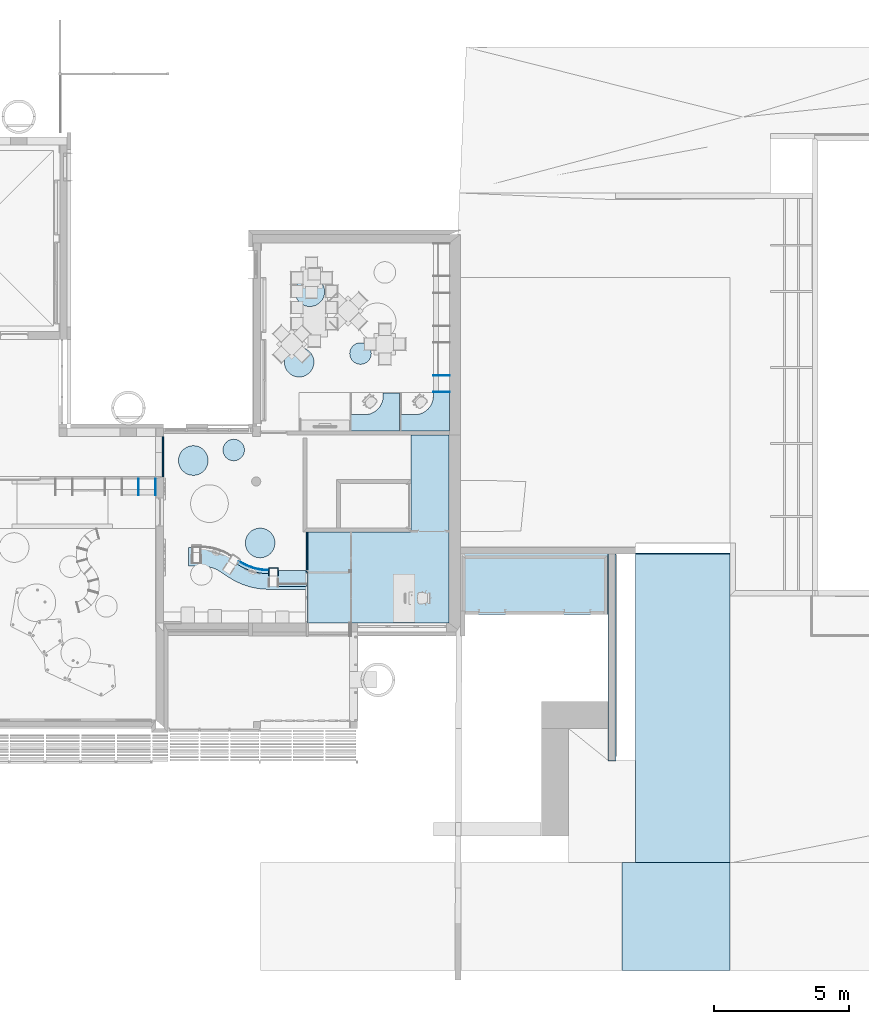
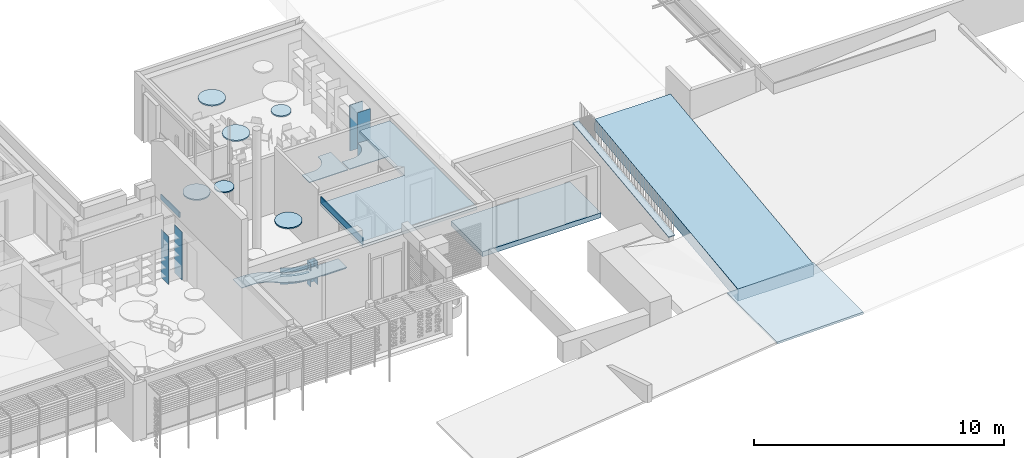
# One storey, part 13 of 64: 24 slabs, 4 openings.
"""IFC2X3 building model written with IfcOpenShell, lengths in metres."""

from ifc_helpers import new_model, entity, si_unit, converted_unit, derived_unit, direction, frame, frame_2d, origin, origin_2d_with_axis, place, context, subcontext, project, spatial, polyline, circle_curve, parameter, trimmed, segment, composite_curve, rectangle, circle, outline, extrude, material, layer, layer_set, layer_usage, type_object, element, save


model = new_model("IFC2X3")

# Units and contexts
model_context = context("Model", 3, precision=1e-05, world=origin(), true_north=direction((6.123031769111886e-17, 1.0)))
body_context = subcontext(model_context, "Body", "Model", "MODEL_VIEW")
ifc_project = project(units=[si_unit("LENGTHUNIT", "METRE"), si_unit("AREAUNIT", "SQUARE_METRE"), si_unit("VOLUMEUNIT", "CUBIC_METRE"), converted_unit("PLANEANGLEUNIT", "DEGREE", entity("IfcRatioMeasure", 0.017453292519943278), si_unit("PLANEANGLEUNIT", "RADIAN"), dimensions=[0, 0, 0, 0, 0, 0, 0]), si_unit("MASSUNIT", "GRAM", prefix="KILO"), derived_unit("MASSDENSITYUNIT", [(si_unit("MASSUNIT", "GRAM", prefix="KILO"), 1), (si_unit("LENGTHUNIT", "METRE"), -3)]), derived_unit("MOMENTOFINERTIAUNIT", [(si_unit("LENGTHUNIT", "METRE"), 4)]), si_unit("TIMEUNIT", "SECOND"), si_unit("FREQUENCYUNIT", "HERTZ"), si_unit("THERMODYNAMICTEMPERATUREUNIT", "DEGREE_CELSIUS"), derived_unit("THERMALTRANSMITTANCEUNIT", [(si_unit("MASSUNIT", "GRAM", prefix="KILO"), 1), (si_unit("THERMODYNAMICTEMPERATUREUNIT", "KELVIN"), -1), (si_unit("TIMEUNIT", "SECOND"), -3)]), derived_unit("THERMALCONDUCTANCEUNIT", [(si_unit("MASSUNIT", "GRAM", prefix="KILO"), 1), (si_unit("LENGTHUNIT", "METRE"), 1), (si_unit("THERMODYNAMICTEMPERATUREUNIT", "KELVIN"), -1), (si_unit("TIMEUNIT", "SECOND"), -3)]), derived_unit("VOLUMETRICFLOWRATEUNIT", [(si_unit("LENGTHUNIT", "METRE"), 3), (si_unit("TIMEUNIT", "SECOND"), -1)]), derived_unit("MASSFLOWRATEUNIT", [(si_unit("MASSUNIT", "GRAM", prefix="KILO"), 1), (si_unit("TIMEUNIT", "SECOND"), -1)]), derived_unit("ROTATIONALFREQUENCYUNIT", [(si_unit("TIMEUNIT", "SECOND"), -1)]), si_unit("ELECTRICCURRENTUNIT", "AMPERE"), si_unit("ELECTRICVOLTAGEUNIT", "VOLT"), si_unit("POWERUNIT", "WATT"), si_unit("FORCEUNIT", "NEWTON", prefix="KILO"), si_unit("ILLUMINANCEUNIT", "LUX"), si_unit("LUMINOUSFLUXUNIT", "LUMEN"), si_unit("LUMINOUSINTENSITYUNIT", "CANDELA"), derived_unit("USERDEFINED", [(si_unit("MASSUNIT", "GRAM", prefix="KILO"), -1), (si_unit("LENGTHUNIT", "METRE"), -2), (si_unit("TIMEUNIT", "SECOND"), 3), (si_unit("LUMINOUSFLUXUNIT", "LUMEN"), 1)]), derived_unit("USERDEFINED", [(si_unit("MASSUNIT", "GRAM", prefix="KILO"), 1), (si_unit("LENGTHUNIT", "METRE"), 3), (si_unit("TIMEUNIT", "SECOND"), -3), (si_unit("ELECTRICCURRENTUNIT", "AMPERE"), -2)]), derived_unit("USERDEFINED", [(si_unit("LENGTHUNIT", "METRE"), 2), (si_unit("TIMEUNIT", "SECOND"), -2)]), derived_unit("SOUNDPOWERUNIT", [(si_unit("MASSUNIT", "GRAM", prefix="KILO"), 1), (si_unit("LENGTHUNIT", "METRE"), 2), (si_unit("TIMEUNIT", "SECOND"), -3)]), derived_unit("SOUNDPRESSUREUNIT", [(si_unit("MASSUNIT", "GRAM", prefix="KILO"), 1), (si_unit("LENGTHUNIT", "METRE"), -1), (si_unit("TIMEUNIT", "SECOND"), -2)]), derived_unit("LINEARVELOCITYUNIT", [(si_unit("LENGTHUNIT", "METRE"), 1), (si_unit("TIMEUNIT", "SECOND"), -1)]), si_unit("PRESSUREUNIT", "PASCAL"), derived_unit("USERDEFINED", [(si_unit("LENGTHUNIT", "METRE"), -2), (si_unit("MASSUNIT", "GRAM", prefix="KILO"), 1), (si_unit("TIMEUNIT", "SECOND"), -2)]), derived_unit("LINEARFORCEUNIT", [(si_unit("MASSUNIT", "GRAM", prefix="KILO"), 1), (si_unit("LENGTHUNIT", "METRE"), 1), (si_unit("TIMEUNIT", "SECOND"), -2), (si_unit("LENGTHUNIT", "METRE"), -1)]), derived_unit("PLANARFORCEUNIT", [(si_unit("MASSUNIT", "GRAM", prefix="KILO"), 1), (si_unit("LENGTHUNIT", "METRE"), 1), (si_unit("TIMEUNIT", "SECOND"), -2), (si_unit("LENGTHUNIT", "METRE"), -2)]), derived_unit("SPECIFICHEATCAPACITYUNIT", [(si_unit("LENGTHUNIT", "METRE"), 2), (si_unit("TIMEUNIT", "SECOND"), -2), (si_unit("THERMODYNAMICTEMPERATUREUNIT", "KELVIN"), -1)]), derived_unit("VAPORPERMEABILITYUNIT", [(si_unit("TIMEUNIT", "SECOND"), 1), (si_unit("LENGTHUNIT", "METRE"), -1)]), derived_unit("DYNAMICVISCOSITYUNIT", [(si_unit("MASSUNIT", "GRAM", prefix="KILO"), 1), (si_unit("LENGTHUNIT", "METRE"), -1), (si_unit("TIMEUNIT", "SECOND"), -1)]), derived_unit("THERMALEXPANSIONCOEFFICIENTUNIT", [(si_unit("THERMODYNAMICTEMPERATUREUNIT", "KELVIN"), -1)])], contexts=[model_context])

# Site, building, storey
site_placement = place(None, origin())
site = spatial("IfcSite", under=ifc_project, at=site_placement, Name="Default", CompositionType="ELEMENT")
building_placement = place(site_placement, origin())
building = spatial("IfcBuilding", under=site, at=building_placement, CompositionType="ELEMENT")
storey_placement = place(building_placement, origin())
storey = spatial("IfcBuildingStorey", under=building, at=storey_placement, Name="REZ-DE-CHAUSSÉE", CompositionType="ELEMENT", Elevation=0.0)

# Slabs
ifc_material_1 = material(Name="Enduit - Jaune nature")
slab_type_1 = type_object("IfcSlabType", Name="Toit-02", PredefinedType="ROOF", material=ifc_material_1)
slab_1_placement = place(storey_placement, origin())
element("IfcSlab", 1, at=slab_1_placement, inside=storey, type_object=slab_type_1, Name="Toit-02:Toit-02", ObjectType="Toit-02:Toit-02", PredefinedType="ROOF", context=body_context, shape_type="SweptSolid", body=[
    extrude(outline(polyline([(-5.792094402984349, -0.2978630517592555), (5.740050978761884, -0.2978630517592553), (5.811538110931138, 0.2978630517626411), (-5.759494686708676, 0.2978630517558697), (-5.792094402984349, -0.2978630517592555)])), frame((134.9007522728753, 4.921862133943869, 1.9781583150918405), z_axis=(1.0, 1.4743355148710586e-08, 1.3155536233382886e-09), x_axis=(1.4795077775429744e-08, -0.9928768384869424, -0.11914522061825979)), (0.0, 0.0, 1.0), 3.5000000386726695),
])
slab_type_2 = type_object("IfcSlabType", Name="Toit-02", PredefinedType="ROOF", material=ifc_material_1)
slab_2_placement = place(storey_placement, origin())
element("IfcSlab", 2, at=slab_2_placement, inside=storey, type_object=slab_type_2, Name="Toit-02 45621:Toit-02 45621", ObjectType="Toit-02 45621:Toit-02 45621", PredefinedType="ROOF", context=body_context, shape_type="SweptSolid", body=[
    extrude(rectangle(XDim=0.09952361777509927, YDim=3.999999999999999, at=frame_2d((5.793976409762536e-16, 0.0), x_axis=(1.0, 0.0))), frame((134.39975724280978, -2.8127904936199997, 1.5397745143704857), z_axis=(0.9998000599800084, 0.0, 0.01999600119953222), x_axis=(0.01999600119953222, 0.0, -0.9998000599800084)), (0.0, 0.0, 1.0), 4.000799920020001),
])
ifc_material_2 = material(Name="Métal - Zinc")
slab_type_3 = type_object("IfcSlabType", Name="Toit-02", PredefinedType="ROOF", material=ifc_material_2)
slab_3_placement = place(storey_placement, origin())
element("IfcSlab", 3, at=slab_3_placement, inside=storey, type_object=slab_type_3, Name="Toit-02 143226:Toit-02 143226", ObjectType="Toit-02 143226:Toit-02 143226", PredefinedType="ROOF", context=body_context, shape_type="SweptSolid", body=[
    extrude(outline(polyline([(-3.8743198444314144, -0.019857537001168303), (3.870850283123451, -0.019857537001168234), (3.8756160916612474, 0.01985753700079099), (-3.872146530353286, 0.01985753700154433), (-3.8743198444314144, -0.019857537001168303)])), frame((133.87075223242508, 6.792853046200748, 2.658677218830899), z_axis=(1.0, 1.463909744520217e-08, 2.1839265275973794e-09), x_axis=(1.4795025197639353e-08, -0.9928768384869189, -0.119145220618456)), (0.0, 0.0, 1.0), 0.29000004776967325),
])
ifc_material_3 = material(Name="Isolation - Fibre de verre")
ifc_layer_1 = layer(ifc_material_3, 0.12)
ifc_material_4 = material(Name="Plâtre - Plaques de plâtre")
ifc_layer_2 = layer(ifc_material_4, 0.02)
ifc_layer_set_1 = layer_set([ifc_layer_1, ifc_layer_2], Name="Sol:Dalle-007:1404")
ifc_layer_usage_1 = layer_usage(ifc_layer_set_1, "AXIS3", "POSITIVE", 0.0)
slab_type_4 = type_object("IfcSlabType", Name="Sol:Dalle-007:1404", PredefinedType="FLOOR", material=ifc_layer_set_1)
slab_4_placement = place(storey_placement, origin())
element("IfcSlab", 4, at=slab_4_placement, inside=storey, type_object=slab_type_4, material=ifc_layer_usage_1, Name="Sol:Dalle-007:1404", ObjectType="Sol:Dalle-007:1404", PredefinedType="FLOOR", context=body_context, shape_type="SweptSolid", body=[
    extrude(outline(polyline([(-3.446666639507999, -3.0566666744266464), (-0.07666670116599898, -3.0566666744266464), (-0.07666670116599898, 0.8233333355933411), (3.523333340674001, 0.8233333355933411), (3.523333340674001, 2.23333333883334), (-3.446666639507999, 2.23333333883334), (-3.446666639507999, -3.0566666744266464)])), frame((125.73741897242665, 11.523876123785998, 2.6399999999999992), z_axis=(0.0, 0.0, -1.0), x_axis=(0.0, 1.0, 0.0)), (0.0, 0.0, 1.0), 0.14000000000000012),
])
ifc_material_5 = material(Name="Bois - Pin granuleux horizontal")
ifc_layer_3 = layer(ifc_material_5, 0.02)
ifc_layer_set_2 = layer_set([ifc_layer_3], Name="Sol:Dalle-007:1415")
ifc_layer_usage_2 = layer_usage(ifc_layer_set_2, "AXIS3", "POSITIVE", 0.0)
slab_type_5 = type_object("IfcSlabType", Name="Sol:Dalle-007:1415", PredefinedType="FLOOR", material=ifc_layer_set_2)
slab_5_placement = place(storey_placement, origin())
element("IfcSlab", 5, at=slab_5_placement, inside=storey, type_object=slab_type_5, material=ifc_layer_usage_2, Name="Sol:Dalle-007:1415", ObjectType="Sol:Dalle-007:1415", PredefinedType="FLOOR", context=body_context, shape_type="SweptSolid", body=[
    extrude(outline(composite_curve([segment(polyline([(0.11096039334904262, -0.5682877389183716), (0.23096039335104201, -0.5682877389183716)]), True, "CONTINUOUS"), segment(trimmed(circle_curve(frame_2d((-1.889039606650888, -0.5682877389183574), x_axis=(1.0, 0.0)), 2.1199999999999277), [parameter(0.0)], [parameter(33.48616877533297)], True, "PARAMETER"), True, "CONTINUOUS"), segment(polyline([(-0.12091925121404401, 0.6013918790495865), (-0.22100153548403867, 0.5351835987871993)]), True, "CONTINUOUS"), segment(trimmed(circle_curve(frame_2d((-1.889039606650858, -0.5682877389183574), x_axis=(0.8340190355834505, 0.5517356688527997)), 1.9999999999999), [parameter(326.51383122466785)], [parameter(0.0)], True, "PARAMETER"), False, "CONTINUOUS")], self_intersect=False)), frame((120.71413296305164, 10.138169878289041, 0.68), z_axis=(0.0, 0.0, -1.0), x_axis=(0.0, -1.0, 0.0)), (0.0, 0.0, 1.0), 0.020000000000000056),
])
slab_6_placement = place(storey_placement, origin())
element("IfcSlab", 6, at=slab_6_placement, inside=storey, type_object=slab_type_5, material=ifc_layer_usage_2, Name="Sol:Dalle-007:1415", ObjectType="Sol:Dalle-007:1415", PredefinedType="FLOOR", context=body_context, shape_type="SweptSolid", body=[
    extrude(rectangle(XDim=0.08000000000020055, YDim=1.0600000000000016, at=origin_2d_with_axis()), frame((122.14511099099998, 9.467209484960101, 0.68), z_axis=(0.0, 0.0, -1.0), x_axis=(0.0, 1.0, 0.0)), (0.0, 0.0, 1.0), 0.020000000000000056),
])
ifc_layer_4 = layer(ifc_material_5, 1.1299999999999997)
ifc_layer_set_3 = layer_set([ifc_layer_4], Name="Sol:Dalle-006:1416")
ifc_layer_usage_3 = layer_usage(ifc_layer_set_3, "AXIS3", "POSITIVE", 0.0)
slab_type_6 = type_object("IfcSlabType", Name="Sol:Dalle-006:1416", PredefinedType="FLOOR", material=ifc_layer_set_3)
slab_7_placement = place(storey_placement, origin())
element("IfcSlab", 7, at=slab_7_placement, inside=storey, type_object=slab_type_6, material=ifc_layer_usage_3, Name="Sol:Dalle-006:1416", ObjectType="Sol:Dalle-006:1416", PredefinedType="FLOOR", context=body_context, shape_type="SweptSolid", body=[
    extrude(outline(polyline([(-0.14499999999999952, -0.17499999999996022), (0.15500000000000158, -0.17499999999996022), (0.15500000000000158, 0.17500000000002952), (-0.14499999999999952, 0.17500000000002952), (-0.14499999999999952, 0.1549999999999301), (0.13499999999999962, 0.1549999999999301), (0.13499999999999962, -0.15499999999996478), (-0.14499999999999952, -0.15499999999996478), (-0.14499999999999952, -0.17499999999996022)])), frame((121.46011099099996, 9.972209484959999, 1.1299999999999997), z_axis=(0.0, 0.0, -1.0), x_axis=(0.0, 1.0, 0.0)), (0.0, 0.0, 1.0), 1.1299999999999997),
])

# Slab, openings
ifc_layer_5 = layer(ifc_material_5, 0.03)
ifc_layer_set_4 = layer_set([ifc_layer_5], Name="Sol:Dalle-007:1417")
ifc_layer_usage_4 = layer_usage(ifc_layer_set_4, "AXIS3", "POSITIVE", 0.0)
slab_type_7 = type_object("IfcSlabType", Name="Sol:Dalle-007:1417", PredefinedType="FLOOR", material=ifc_layer_set_4)
slab_8_placement = place(storey_placement, frame((118.30639356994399, 9.327209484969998, 0.7600000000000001)))
slab_8 = element("IfcSlab", 8, at=slab_8_placement, inside=storey, type_object=slab_type_7, material=ifc_layer_usage_4, Name="Sol:Dalle-007:1417", ObjectType="Sol:Dalle-007:1417", PredefinedType="FLOOR", context=body_context, shape_type="SweptSolid", body=[
    extrude(outline(composite_curve([segment(polyline([(0.6081970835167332, 0.4480380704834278), (0.31180291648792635, 0.2519619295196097)]), True, "CONTINUOUS"), segment(trimmed(circle_curve(frame_2d((-0.7916684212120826, 1.9200000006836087), x_axis=(0.0, 1.0)), 1.9999999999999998), [parameter(179.99999999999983)], [parameter(213.48616877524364)], True, "PARAMETER"), False, "CONTINUOUS"), segment(polyline([(-0.7916684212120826, -0.07999999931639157), (-2.184358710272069, -0.07999999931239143)]), True, "CONTINUOUS"), segment(polyline([(-2.184358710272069, -0.07999999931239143), (-2.184358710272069, -0.7799999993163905)]), True, "CONTINUOUS"), segment(polyline([(-2.184358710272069, -0.7799999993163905), (-0.7916684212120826, -0.7799999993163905)]), True, "CONTINUOUS"), segment(trimmed(circle_curve(frame_2d((-0.7916684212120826, 1.9200000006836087), x_axis=(0.0, 1.0)), 2.7), [parameter(179.99999999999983)], [parameter(213.48616877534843)], True, "PARAMETER"), True, "CONTINUOUS"), segment(polyline([(0.6980178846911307, -0.33185139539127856), (0.9944120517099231, -0.13577525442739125)]), True, "CONTINUOUS"), segment(trimmed(circle_curve(frame_2d((1.7116684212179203, -1.2200000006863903), x_axis=(0.0, 1.0)), 1.3), [parameter(0.0)], [parameter(33.48616877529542)], True, "PARAMETER"), False, "CONTINUOUS"), segment(polyline([(1.7116684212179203, 0.0799999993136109), (2.184358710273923, 0.0799999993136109)]), True, "CONTINUOUS"), segment(polyline([(2.184358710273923, 0.0799999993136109), (2.184358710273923, 0.7799999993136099)]), True, "CONTINUOUS"), segment(polyline([(2.184358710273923, 0.7799999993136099), (1.7116684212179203, 0.7799999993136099)]), True, "CONTINUOUS"), segment(trimmed(circle_curve(frame_2d((1.7116684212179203, -1.2200000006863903), x_axis=(0.0, 1.0)), 1.9999999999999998), [parameter(0.0)], [parameter(33.486168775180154)], True, "PARAMETER"), True, "CONTINUOUS")], self_intersect=False)), frame((2.184358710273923, 0.7799999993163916, 0.029999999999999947), z_axis=(0.0, 0.0, -1.0), x_axis=(-1.0, 0.0, 0.0)), (0.0, 0.0, 1.0), 0.029999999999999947),
])
opening_1_placement = place(slab_8_placement, frame((0.5320051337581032, 1.5090976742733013, 0.029999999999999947)))
element("IfcOpeningElement", 9, at=opening_1_placement, cuts=slab_8, Name="Sol:Dalle-007:1417:2", ObjectType="Opening", context=body_context, shape_type="SweptSolid", body=[
    extrude(circle(Radius=0.03, at=origin_2d_with_axis()), frame((0.0, 0.0, 0.0), z_axis=(0.0, 0.0, -1.0), x_axis=(0.0, 1.0, 0.0)), (0.0, 0.0, 1.0), 0.029999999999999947),
])
opening_2_placement = place(slab_8_placement, frame((1.498607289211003, 1.2183106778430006, 0.029999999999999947)))
element("IfcOpeningElement", 10, at=opening_2_placement, cuts=slab_8, Name="Sol:Dalle-007:1417:3", ObjectType="Opening", context=body_context, shape_type="SweptSolid", body=[
    extrude(circle(Radius=0.03, at=origin_2d_with_axis()), frame((0.0, 0.0, 0.0), z_axis=(0.0, 0.0, -1.0), x_axis=(0.0, 1.0, 0.0)), (0.0, 0.0, 1.0), 0.029999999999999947),
])
opening_3_placement = place(slab_8_placement, frame((1.9092534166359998, 0.9494304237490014, 0.029999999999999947)))
element("IfcOpeningElement", 11, at=opening_3_placement, cuts=slab_8, Name="Sol:Dalle-007:1417:4", ObjectType="Opening", context=body_context, shape_type="SweptSolid", body=[
    extrude(circle(Radius=0.03, at=origin_2d_with_axis()), frame((0.0, 0.0, 0.0), z_axis=(0.0, 0.0, -1.0), x_axis=(0.0, 1.0, 0.0)), (0.0, 0.0, 1.0), 0.029999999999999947),
])
opening_4_placement = place(slab_8_placement, frame((2.8998850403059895, 0.6514145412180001, 0.029999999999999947)))
element("IfcOpeningElement", 12, at=opening_4_placement, cuts=slab_8, Name="Sol:Dalle-007:1417:5", ObjectType="Opening", context=body_context, shape_type="SweptSolid", body=[
    extrude(circle(Radius=0.03, at=origin_2d_with_axis()), frame((0.0, 0.0, 0.0), z_axis=(0.0, 0.0, -1.0), x_axis=(0.0, 1.0, 0.0)), (0.0, 0.0, 1.0), 0.029999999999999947),
])

# Slabs
slab_9_placement = place(storey_placement, origin())
element("IfcSlab", 13, at=slab_9_placement, inside=storey, type_object=slab_type_7, material=ifc_layer_usage_4, Name="Sol:Dalle-007:1417", ObjectType="Sol:Dalle-007:1417", PredefinedType="FLOOR", context=body_context, shape_type="SweptSolid", body=[
    extrude(outline(composite_curve([segment(polyline([(-0.757142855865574, -0.9285714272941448), (-0.1571428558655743, -0.9285714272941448)]), True, "CONTINUOUS"), segment(polyline([(-0.1571428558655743, -0.9285714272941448), (-0.1571428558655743, -0.4285714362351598)]), True, "CONTINUOUS"), segment(trimmed(circle_curve(frame_2d((0.5428571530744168, -0.4285714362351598), x_axis=(-1.0, 0.0)), 0.7000000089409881), [parameter(269.99999999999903)], [parameter(0.0)], True, "PARAMETER"), False, "CONTINUOUS"), segment(polyline([(0.542857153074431, 0.27142857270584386), (0.6428571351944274, 0.2714285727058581)]), True, "CONTINUOUS"), segment(polyline([(0.6428571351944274, 0.2714285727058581), (0.6428571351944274, 0.8714285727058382)]), True, "CONTINUOUS"), segment(polyline([(0.6428571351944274, 0.8714285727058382), (-0.757142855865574, 0.8714285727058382)]), True, "CONTINUOUS"), segment(polyline([(-0.757142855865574, 0.8714285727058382), (-0.757142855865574, -0.9285714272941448)]), True, "CONTINUOUS")], self_intersect=False)), frame((127.11932370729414, 15.964352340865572, 0.7899999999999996), z_axis=(0.0, 0.0, -1.0), x_axis=(0.0, 1.0, 0.0)), (0.0, 0.0, 1.0), 0.029999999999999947),
])
slab_10_placement = place(storey_placement, origin())
element("IfcSlab", 14, at=slab_10_placement, inside=storey, type_object=slab_type_7, material=ifc_layer_usage_4, Name="Sol:Dalle-007:1417", ObjectType="Sol:Dalle-007:1417", PredefinedType="FLOOR", context=body_context, shape_type="SweptSolid", body=[
    extrude(outline(composite_curve([segment(polyline([(-0.757142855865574, -0.9285714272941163), (-0.1571428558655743, -0.9285714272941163)]), True, "CONTINUOUS"), segment(polyline([(-0.1571428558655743, -0.9285714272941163), (-0.1571428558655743, -0.4285714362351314)]), True, "CONTINUOUS"), segment(trimmed(circle_curve(frame_2d((0.5428571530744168, -0.4285714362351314), x_axis=(-1.0, 0.0)), 0.7000000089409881), [parameter(269.99999999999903)], [parameter(0.0)], True, "PARAMETER"), False, "CONTINUOUS"), segment(polyline([(0.542857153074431, 0.2714285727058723), (0.6428571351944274, 0.2714285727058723)]), True, "CONTINUOUS"), segment(polyline([(0.6428571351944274, 0.2714285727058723), (0.6428571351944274, 0.8714285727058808)]), True, "CONTINUOUS"), segment(polyline([(0.6428571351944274, 0.8714285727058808), (-0.757142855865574, 0.8714285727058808)]), True, "CONTINUOUS"), segment(polyline([(-0.757142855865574, 0.8714285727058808), (-0.757142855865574, -0.9285714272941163)]), True, "CONTINUOUS")], self_intersect=False)), frame((125.25932370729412, 15.964352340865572, 0.7899999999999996), z_axis=(0.0, 0.0, -1.0), x_axis=(0.0, 1.0, 0.0)), (0.0, 0.0, 1.0), 0.029999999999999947),
])
ifc_layer_6 = layer(ifc_material_5, 0.8)
ifc_layer_set_5 = layer_set([ifc_layer_6], Name="Sol:Dalle-006:1418")
ifc_layer_usage_5 = layer_usage(ifc_layer_set_5, "AXIS3", "POSITIVE", 0.0)
slab_type_8 = type_object("IfcSlabType", Name="Sol:Dalle-006:1418", PredefinedType="FLOOR", material=ifc_layer_set_5)
slab_11_placement = place(storey_placement, origin())
element("IfcSlab", 15, at=slab_11_placement, inside=storey, type_object=slab_type_8, material=ifc_layer_usage_5, Name="Sol:Dalle-006:1418", ObjectType="Sol:Dalle-006:1418", PredefinedType="FLOOR", context=body_context, shape_type="SweptSolid", body=[
    extrude(outline(composite_curve([segment(polyline([(-0.551555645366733, -0.17552214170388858), (-0.5488653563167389, -0.17552214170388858)]), True, "CONTINUOUS"), segment(trimmed(circle_curve(frame_2d((-0.5488653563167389, 1.824477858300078), x_axis=(0.0, -1.0)), 1.999999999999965), [parameter(0.0)], [parameter(33.48616877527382)], True, "PARAMETER"), True, "CONTINUOUS"), segment(polyline([(0.5546059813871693, 0.15643978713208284), (0.5568497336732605, 0.15792411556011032)]), True, "CONTINUOUS"), segment(polyline([(0.5568497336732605, 0.15792411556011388), (0.5458150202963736, 0.17460449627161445)]), True, "CONTINUOUS"), segment(polyline([(0.5458150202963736, 0.17460449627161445), (0.5435712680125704, 0.17312016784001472)]), True, "CONTINUOUS"), segment(trimmed(circle_curve(frame_2d((-0.5488653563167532, 1.8244778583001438), x_axis=(0.5517356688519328, -0.8340190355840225)), 1.980000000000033), [parameter(326.5138312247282)], [parameter(0.0)], True, "PARAMETER"), False, "CONTINUOUS"), segment(polyline([(-0.5488653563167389, -0.15552214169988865), (-0.551555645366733, -0.15552214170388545)]), True, "CONTINUOUS"), segment(polyline([(-0.551555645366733, -0.15552214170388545), (-0.551555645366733, -0.17552214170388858)]), True, "CONTINUOUS")], self_intersect=False)), frame((120.73355534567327, 10.202731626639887, 1.0), z_axis=(0.0, 0.0, -1.0), x_axis=(-1.0, 0.0, 0.0)), (0.0, 0.0, 1.0), 0.8),
])
ifc_layer_7 = layer(ifc_material_5, 0.06)
ifc_layer_set_6 = layer_set([ifc_layer_7], Name="Sol:Dalle-006:1419")
ifc_layer_usage_6 = layer_usage(ifc_layer_set_6, "AXIS3", "POSITIVE", 0.0)
slab_type_9 = type_object("IfcSlabType", Name="Sol:Dalle-006:1419", PredefinedType="FLOOR", material=ifc_layer_set_6)
slab_12_placement = place(storey_placement, origin())
element("IfcSlab", 16, at=slab_12_placement, inside=storey, type_object=slab_type_9, material=ifc_layer_usage_6, Name="Sol:Dalle-006:1419", ObjectType="Sol:Dalle-006:1419", PredefinedType="FLOOR", context=body_context, shape_type="SweptSolid", body=[
    extrude(circle(Radius=0.5500000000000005, at=origin_2d_with_axis()), frame((122.80648170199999, 20.3727996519, 2.3599999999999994), z_axis=(0.0, 0.0, -1.0), x_axis=(1.0, 0.0, 0.0)), (0.0, 0.0, 1.0), 0.059999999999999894),
])
slab_13_placement = place(storey_placement, origin())
element("IfcSlab", 17, at=slab_13_placement, inside=storey, type_object=slab_type_9, material=ifc_layer_usage_6, Name="Sol:Dalle-006:1419", ObjectType="Sol:Dalle-006:1419", PredefinedType="FLOOR", context=body_context, shape_type="SweptSolid", body=[
    extrude(circle(Radius=0.5500000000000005, at=frame_2d((-3.411203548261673e-29, 2.1657342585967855e-15), x_axis=(1.0, 0.0))), frame((122.409781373, 17.757056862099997, 2.3599999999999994), z_axis=(0.0, 0.0, -1.0), x_axis=(-1.0, 0.0, 0.0)), (0.0, 0.0, 1.0), 0.059999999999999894),
])
slab_14_placement = place(storey_placement, origin())
element("IfcSlab", 18, at=slab_14_placement, inside=storey, type_object=slab_type_9, material=ifc_layer_usage_6, Name="Sol:Dalle-006:1419", ObjectType="Sol:Dalle-006:1419", PredefinedType="FLOOR", context=body_context, shape_type="SweptSolid", body=[
    extrude(circle(Radius=0.3999999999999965, at=frame_2d((-9.380809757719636e-29, 4.331468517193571e-15), x_axis=(1.0, 0.0))), frame((119.98075227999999, 14.497209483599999, 2.5599999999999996), z_axis=(0.0, 0.0, -1.0), x_axis=(-1.0, 0.0, 0.0)), (0.0, 0.0, 1.0), 0.059999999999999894),
])
slab_15_placement = place(storey_placement, origin())
element("IfcSlab", 19, at=slab_15_placement, inside=storey, type_object=slab_type_9, material=ifc_layer_usage_6, Name="Sol:Dalle-006:1419", ObjectType="Sol:Dalle-006:1419", PredefinedType="FLOOR", context=body_context, shape_type="SweptSolid", body=[
    extrude(circle(Radius=0.5500000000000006, at=frame_2d((-3.411203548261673e-29, 2.1657342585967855e-15), x_axis=(1.0, 0.0))), frame((118.480752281, 14.107209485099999, 3.0599999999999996), z_axis=(0.0, 0.0, -1.0), x_axis=(-1.0, 0.0, 0.0)), (0.0, 0.0, 1.0), 0.059999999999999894),
])
slab_16_placement = place(storey_placement, origin())
element("IfcSlab", 20, at=slab_16_placement, inside=storey, type_object=slab_type_9, material=ifc_layer_usage_6, Name="Sol:Dalle-006:1419", ObjectType="Sol:Dalle-006:1419", PredefinedType="FLOOR", context=body_context, shape_type="SweptSolid", body=[
    extrude(circle(Radius=0.5500000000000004, at=frame_2d((8.528008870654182e-30, -2.1657342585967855e-15), x_axis=(1.0, 0.0))), frame((120.96075227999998, 11.047209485, 2.66), z_axis=(0.0, 0.0, -1.0), x_axis=(1.0, 0.0, 0.0)), (0.0, 0.0, 1.0), 0.059999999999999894),
])
slab_17_placement = place(storey_placement, origin())
element("IfcSlab", 21, at=slab_17_placement, inside=storey, type_object=slab_type_9, material=ifc_layer_usage_6, Name="Sol:Dalle-006:1419", ObjectType="Sol:Dalle-006:1419", PredefinedType="FLOOR", context=body_context, shape_type="SweptSolid", body=[
    extrude(circle(Radius=0.3999999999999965, at=frame_2d((-9.380809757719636e-29, 4.331468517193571e-15), x_axis=(1.0, 0.0))), frame((124.68659561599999, 18.0776426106, 2.4599999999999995), z_axis=(0.0, 0.0, -1.0), x_axis=(-1.0, 0.0, 0.0)), (0.0, 0.0, 1.0), 0.059999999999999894),
])
ifc_material_6 = material(Name="Appareillage - Pierre taillé")
ifc_layer_8 = layer(ifc_material_6, 0.24)
ifc_layer_set_7 = layer_set([ifc_layer_8], Name="Sol:Dalle-004:1425")
ifc_layer_usage_7 = layer_usage(ifc_layer_set_7, "AXIS3", "POSITIVE", 0.0)
slab_type_10 = type_object("IfcSlabType", Name="Sol:Dalle-004:1425", PredefinedType="FLOOR", material=ifc_layer_set_7)
slab_18_placement = place(storey_placement, origin())
element("IfcSlab", 22, at=slab_18_placement, inside=storey, type_object=slab_type_10, material=ifc_layer_usage_7, Name="Sol:Dalle-004:1425", ObjectType="Sol:Dalle-004:1425", PredefinedType="FLOOR", context=body_context, shape_type="SweptSolid", body=[
    extrude(rectangle(XDim=2.499999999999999, YDim=5.490000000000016, at=frame_2d((0.0, 8.659739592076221e-15), x_axis=(1.0, 0.0))), frame((131.14575227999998, 9.637209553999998, 0.1), z_axis=(0.0, 0.0, -1.0), x_axis=(0.0, 1.0, 0.0)), (0.0, 0.0, 1.0), 0.24),
])
ifc_material_7 = material(Name="Peinture - Blanc brillant")
ifc_layer_9 = layer(ifc_material_7, 0.25999999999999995)
ifc_layer_set_8 = layer_set([ifc_layer_9], Name="Sol:Dalle-009:1446")
ifc_layer_usage_8 = layer_usage(ifc_layer_set_8, "AXIS3", "POSITIVE", 0.0)
slab_type_11 = type_object("IfcSlabType", Name="Sol:Dalle-009:1446", PredefinedType="FLOOR", material=ifc_layer_set_8)
slab_19_placement = place(storey_placement, origin())
element("IfcSlab", 23, at=slab_19_placement, inside=storey, type_object=slab_type_11, material=ifc_layer_usage_8, Name="Sol:Dalle-009:1446", ObjectType="Sol:Dalle-009:1446", PredefinedType="FLOOR", context=body_context, shape_type="SweptSolid", body=[
    extrude(rectangle(XDim=1.4899999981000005, YDim=0.04999999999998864, at=origin_2d_with_axis()), frame((117.35575227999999, 14.25220948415, 2.8), z_axis=(0.0, 0.0, -1.0), x_axis=(0.0, 1.0, 0.0)), (0.0, 0.0, 1.0), 0.2599999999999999),
])
ifc_layer_10 = layer(ifc_material_7, 0.31)
ifc_layer_set_9 = layer_set([ifc_layer_10], Name="Sol:Dalle-009:1495")
ifc_layer_usage_9 = layer_usage(ifc_layer_set_9, "AXIS3", "POSITIVE", 0.0)
slab_type_12 = type_object("IfcSlabType", Name="Sol:Dalle-009:1495", PredefinedType="FLOOR", material=ifc_layer_set_9)
slab_20_placement = place(storey_placement, origin())
element("IfcSlab", 24, at=slab_20_placement, inside=storey, type_object=slab_type_12, material=ifc_layer_usage_9, Name="Sol:Dalle-009:1495", ObjectType="Sol:Dalle-009:1495", PredefinedType="FLOOR", context=body_context, shape_type="SweptSolid", body=[
    extrude(rectangle(XDim=3.3699999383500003, YDim=0.04999999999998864, at=frame_2d((5.551115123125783e-16, 1.7324683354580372e-14), x_axis=(1.0, 0.0))), frame((122.70575229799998, 9.762209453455, 2.9499999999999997), z_axis=(0.0, 0.0, -1.0), x_axis=(0.0, 1.0, 0.0)), (0.0, 0.0, 1.0), 0.30999999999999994),
])
ifc_layer_11 = layer(ifc_material_5, 2.25)
ifc_layer_set_10 = layer_set([ifc_layer_11], Name="Sol:Dalle-006:1523")
ifc_layer_usage_10 = layer_usage(ifc_layer_set_10, "AXIS3", "POSITIVE", 0.0)
slab_type_13 = type_object("IfcSlabType", Name="Sol:Dalle-006:1523", PredefinedType="FLOOR", material=ifc_layer_set_10)
slab_21_placement = place(storey_placement, origin())
element("IfcSlab", 25, at=slab_21_placement, inside=storey, type_object=slab_type_13, material=ifc_layer_usage_10, Name="Sol:Dalle-006:1523", ObjectType="Sol:Dalle-006:1523", PredefinedType="FLOOR", context=body_context, shape_type="SweptSolid", body=[
    extrude(rectangle(XDim=0.019999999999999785, YDim=0.5999999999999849, at=frame_2d((0.0, 8.659739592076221e-15), x_axis=(1.0, 0.0))), frame((127.69075227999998, 17.267209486, 2.25), z_axis=(0.0, 0.0, -1.0), x_axis=(0.0, 1.0, 0.0)), (0.0, 0.0, 1.0), 2.25),
])
slab_22_placement = place(storey_placement, origin())
element("IfcSlab", 26, at=slab_22_placement, inside=storey, type_object=slab_type_13, material=ifc_layer_usage_10, Name="Sol:Dalle-006:1523", ObjectType="Sol:Dalle-006:1523", PredefinedType="FLOOR", context=body_context, shape_type="SweptSolid", body=[
    extrude(rectangle(XDim=0.019999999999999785, YDim=0.5999999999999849, at=frame_2d((0.0, 8.659739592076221e-15), x_axis=(1.0, 0.0))), frame((127.69075227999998, 16.647209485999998, 2.25), z_axis=(0.0, 0.0, -1.0), x_axis=(0.0, 1.0, 0.0)), (0.0, 0.0, 1.0), 2.25),
])
ifc_layer_12 = layer(ifc_material_5, 2.35)
ifc_layer_set_11 = layer_set([ifc_layer_12], Name="Sol:Dalle-006")
ifc_layer_usage_11 = layer_usage(ifc_layer_set_11, "AXIS3", "POSITIVE", 0.0)
slab_type_14 = type_object("IfcSlabType", Name="Sol:Dalle-006", PredefinedType="FLOOR", material=ifc_layer_set_11)
slab_23_placement = place(storey_placement, origin())
element("IfcSlab", 27, at=slab_23_placement, inside=storey, type_object=slab_type_14, material=ifc_layer_usage_11, Name="Sol:Dalle-006", ObjectType="Sol:Dalle-006", PredefinedType="FLOOR", context=body_context, shape_type="SweptSolid", body=[
    extrude(outline(composite_curve([segment(polyline([(-0.29999999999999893, -0.010000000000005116), (0.29999999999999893, -0.010000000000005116)]), True, "CONTINUOUS"), segment(polyline([(0.29999999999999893, -0.010000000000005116), (0.29999999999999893, 0.009999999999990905)]), True, "CONTINUOUS"), segment(polyline([(0.29999999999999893, 0.009999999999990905), (-0.29999999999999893, 0.009999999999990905)]), True, "CONTINUOUS"), segment(trimmed(circle_curve(frame_2d((-0.3000000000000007, 0.0), x_axis=(0.0, 1.0)), 0.009999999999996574), [parameter(0.0)], [parameter(180.00000000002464)], True, "PARAMETER"), True, "CONTINUOUS")], self_intersect=False)), frame((116.45075228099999, 13.1272094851, 2.35), z_axis=(0.0, 0.0, -1.0), x_axis=(0.0, 1.0, 0.0)), (0.0, 0.0, 1.0), 2.35),
])
slab_24_placement = place(storey_placement, origin())
element("IfcSlab", 28, at=slab_24_placement, inside=storey, type_object=slab_type_14, material=ifc_layer_usage_11, Name="Sol:Dalle-006", ObjectType="Sol:Dalle-006", PredefinedType="FLOOR", context=body_context, shape_type="SweptSolid", body=[
    extrude(outline(composite_curve([segment(polyline([(-0.29999999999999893, -0.009999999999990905), (0.29999999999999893, -0.009999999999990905)]), True, "CONTINUOUS"), segment(polyline([(0.29999999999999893, -0.009999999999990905), (0.29999999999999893, 0.010000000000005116)]), True, "CONTINUOUS"), segment(polyline([(0.29999999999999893, 0.010000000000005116), (-0.29999999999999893, 0.010000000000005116)]), True, "CONTINUOUS"), segment(trimmed(circle_curve(frame_2d((-0.29999999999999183, 0.0), x_axis=(0.0, 1.0)), 0.009999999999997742), [parameter(0.0)], [parameter(179.99999999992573)], True, "PARAMETER"), True, "CONTINUOUS")], self_intersect=False)), frame((117.070752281, 13.1272094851, 2.35), z_axis=(0.0, 0.0, -1.0), x_axis=(0.0, 1.0, 0.0)), (0.0, 0.0, 1.0), 2.35),
])

save(model, "model.ifc")
